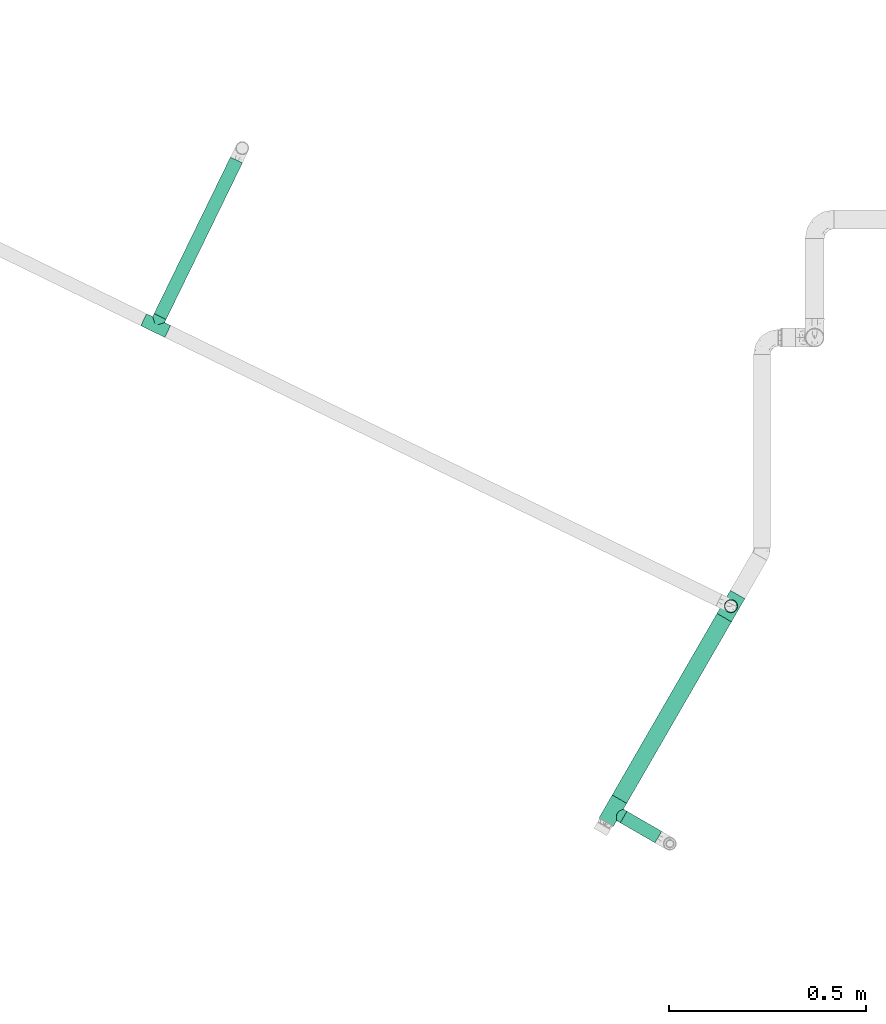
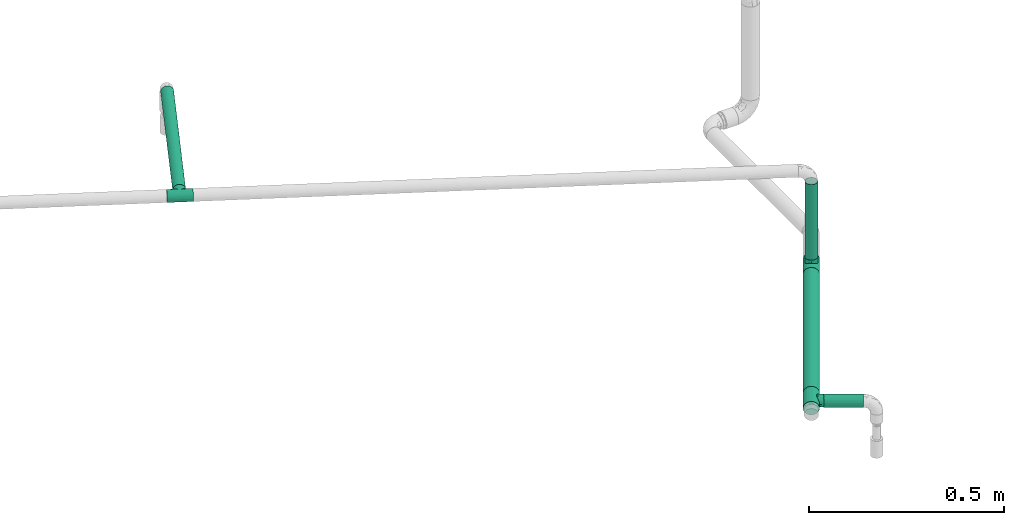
# One storey, part 4 of 43: 4 flow segments, 3 flow fittings.
"""IFC2X3 building model written with IfcOpenShell, lengths in millimetres."""

from ifc_helpers import new_model, entity, si_unit, converted_unit, derived_unit, direction, frame, origin_with_axes, origin_2d_with_axis, place, context, subcontext, project, spatial, hollow_circle, extrude, open_shell, surface_model, source, transform, mapped, type_object, element, save


model = new_model("IFC2X3")

# Units and contexts
model_context = context("Model", 3, precision=0.01, world=frame((0.0, 4.29681676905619e-09, 0.0)), true_north=direction((4.01073788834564e-13, 1.0)))
plan_context = context("Plan", 3, precision=0.01, world=frame((0.0, 4.29681676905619e-09, 0.0)), true_north=direction((4.01073788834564e-13, 1.0)))
body_context = subcontext(model_context, "Body", "Model", "MODEL_VIEW")
ifc_project = project(units=[converted_unit("PLANEANGLEUNIT", "DEGREE", entity("IfcPositiveLengthMeasure", 0.0174532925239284), si_unit("PLANEANGLEUNIT", "RADIAN"), dimensions=[0, 0, 0, 0, 0, 0, 0]), si_unit("AREAUNIT", "SQUARE_METRE"), si_unit("LENGTHUNIT", "METRE", prefix="MILLI"), si_unit("MASSUNIT", "GRAM", prefix="KILO"), si_unit("POWERUNIT", "WATT"), si_unit("PRESSUREUNIT", "PASCAL"), si_unit("FORCEUNIT", "NEWTON", prefix="KILO"), si_unit("ELECTRICVOLTAGEUNIT", "VOLT"), si_unit("ELECTRICCURRENTUNIT", "AMPERE"), si_unit("THERMODYNAMICTEMPERATUREUNIT", "DEGREE_CELSIUS"), si_unit("TIMEUNIT", "SECOND"), si_unit("VOLUMEUNIT", "CUBIC_METRE"), derived_unit("LINEARVELOCITYUNIT", [(si_unit("LENGTHUNIT", "METRE"), 1), (si_unit("TIMEUNIT", "SECOND"), -1)]), derived_unit("VOLUMETRICFLOWRATEUNIT", [(si_unit("VOLUMEUNIT", "CUBIC_METRE"), 1), (si_unit("TIMEUNIT", "SECOND"), -1)]), derived_unit("THERMALTRANSMITTANCEUNIT", [(si_unit("POWERUNIT", "WATT"), 1), (si_unit("THERMODYNAMICTEMPERATUREUNIT", "KELVIN"), -1), (si_unit("AREAUNIT", "SQUARE_METRE"), -1)]), derived_unit("SOUNDPRESSUREUNIT", [(si_unit("PRESSUREUNIT", "PASCAL"), 1)])], contexts=[model_context, plan_context])

# Site, building, storey
site_placement = place(None, frame((0.0, -4.29681676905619e-09, 0.0), z_axis=(0.0, 0.0, 1.0), x_axis=(1.0, 0.0, 0.0)))
site = spatial("IfcSite", under=ifc_project, at=site_placement, CompositionType="ELEMENT")
building_placement = place(site_placement, frame((0.0, 4.29681676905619e-09, 0.0), z_axis=(0.0, 0.0, 1.0), x_axis=(1.0, 0.0, 0.0)))
building = spatial("IfcBuilding", under=site, at=building_placement, Name="mc-building", CompositionType="ELEMENT")
storey_placement = place(building_placement, frame((0.0, 0.0, 210900.0), z_axis=(0.0, 0.0, 1.0), x_axis=(1.0, 0.0, 0.0)))
storey = spatial("IfcBuildingStorey", under=building, at=storey_placement, Name="Nivå F", CompositionType="ELEMENT", Elevation=210900.0)

# Flow fittings
pipe_fitting_type = type_object("IfcPipeFittingType", Name="magi_pipe_fe_tee_centric_90_NOR", PredefinedType="JUNCTION")
shared_shape_1 = source(origin_with_axes(), body_context, "Body", "SurfaceModel", [
    surface_model("IfcShellBasedSurfaceModel", [(-33.8, 0.0, -21.2), (-33.8, -5.48696, -20.47763), (-33.8, 5.48696, -20.47763), (-33.8, 10.6, -18.35974), (-33.8, 14.99066, -14.99066), (-33.8, -20.47763, 5.48696), (-33.8, 18.35974, -10.6), (-33.8, 10.6, 18.35974), (-33.8, -14.99066, -14.99066), (-33.8, -18.35974, -10.6), (-33.8, -10.6, -18.35974), (-33.8, -20.47763, -5.48696), (-33.8, -21.2, 0.0), (-33.8, 18.35974, 10.6), (-33.8, 20.47763, -5.48696), (-33.8, 20.47763, 5.48696), (-33.8, 21.2, 0.0), (-33.8, 14.99066, 14.99066), (-33.8, 5.48696, 20.47763), (-33.8, 0.0, 21.2), (-33.8, -18.35974, 10.6), (-33.8, -14.99066, 14.99066), (-33.8, -10.6, 18.35974), (-33.8, -5.48696, 20.47763), (33.8, 5.48696, -20.47763), (33.8, -5.48696, -20.47763), (33.8, 0.0, -21.2), (33.8, 14.99066, -14.99066), (33.8, 10.6, -18.35974), (33.8, 18.35974, -10.6), (33.8, 20.47763, -5.48696), (33.8, -21.2, 0.0), (33.8, -10.6, -18.35974), (33.8, -18.35974, -10.6), (33.8, -14.99066, -14.99066), (33.8, -20.47763, -5.48696), (33.8, -20.47763, 5.48696), (33.8, 21.2, 0.0), (33.8, 20.47763, 5.48696), (33.8, 18.35974, 10.6), (33.8, 10.6, 18.35974), (33.8, 14.99066, 14.99066), (33.8, 0.0, 21.2), (33.8, 5.48696, 20.47763), (33.8, -14.99066, 14.99066), (33.8, -18.35974, 10.6), (33.8, -10.6, 18.35974), (33.8, -5.48696, 20.47763), (16.9, -21.2, 0.0), (15.78624, -20.32327, 6.03364), (12.81343, -18.11115, 11.01935), (8.52479, -15.37862, 14.59239), (3.07939, -13.16482, 16.61708), (-16.9, -21.2, 0.0), (-15.78686, -20.32375, 6.032), (-8.52604, -15.37932, 14.59166), (-3.0848, -13.16609, 16.61608), (-12.81602, -18.11299, 11.01634), (3.07939, -13.16482, -16.61708), (12.81343, -18.11115, -11.01935), (8.52479, -15.37862, -14.59239), (15.78624, -20.32327, -6.03364), (-3.0848, -13.16609, -16.61608), (-8.52604, -15.37932, -14.59166), (-12.81602, -18.11299, -11.01634), (-15.78686, -20.32375, -6.032), (4.37404, -31.8, -16.32415), (-16.9, -31.8, 0.0), (0.0, -31.8, -16.9), (14.63583, -31.8, -8.45), (8.45, -31.8, -14.63583), (16.32415, -31.8, -4.37404), (11.9501, -31.8, -11.9501), (-11.9501, -31.8, -11.9501), (-8.45, -31.8, -14.63583), (-4.37404, -31.8, -16.32415), (-14.63583, -31.8, -8.45), (-16.32415, -31.8, -4.37404), (16.9, -31.8, 0.0), (8.45, -31.8, 14.63583), (16.32415, -31.8, 4.37404), (14.63583, -31.8, 8.45), (-8.45, -31.8, 14.63583), (11.9501, -31.8, 11.9501), (4.37404, -31.8, 16.32415), (-16.32415, -31.8, 4.37404), (-11.9501, -31.8, 11.9501), (-14.63583, -31.8, 8.45), (0.0, -31.8, 16.9), (-4.37404, -31.8, 16.32415), (-16.34343, -20.76188, 3.016), (16.34312, -20.76163, 3.01682), (-0.00271, -13.16546, 16.61658), (16.34312, -20.76163, -3.01682), (-0.00271, -13.16546, -16.61658), (-16.34343, -20.76188, -3.016)], [open_shell([[[0, 1, 2]], [[3, 2, 4]], [[5, 2, 1]], [[4, 2, 6]], [[6, 2, 7]], [[8, 9, 10]], [[1, 10, 9]], [[9, 11, 1]], [[12, 1, 11]], [[5, 1, 12]], [[13, 14, 6]], [[13, 15, 16]], [[6, 7, 13]], [[5, 7, 2]], [[17, 13, 7]], [[18, 7, 19]], [[20, 21, 5]], [[22, 5, 21]], [[23, 19, 22]], [[7, 5, 22]], [[22, 19, 7]], [[16, 14, 13]], [[24, 25, 26]], [[27, 24, 28]], [[29, 30, 24]], [[29, 24, 27]], [[31, 24, 30]], [[32, 33, 34]], [[33, 32, 25]], [[33, 31, 35]], [[31, 33, 25]], [[25, 24, 31]], [[30, 36, 31]], [[37, 38, 39]], [[37, 39, 40]], [[37, 40, 36]], [[40, 39, 41]], [[42, 40, 43]], [[36, 44, 45]], [[44, 36, 46]], [[46, 42, 47]], [[46, 36, 40]], [[40, 42, 46]], [[37, 36, 30]], [[31, 36, 48]], [[49, 48, 36]], [[36, 45, 49]], [[45, 44, 50]], [[51, 50, 44]], [[52, 51, 44]], [[44, 46, 52]], [[45, 50, 49]], [[53, 54, 5]], [[5, 12, 53]], [[54, 20, 5]], [[55, 56, 21]], [[20, 57, 21]], [[57, 20, 54]], [[21, 57, 55]], [[56, 22, 21]], [[52, 22, 56]], [[19, 47, 42]], [[23, 46, 47]], [[18, 42, 43]], [[39, 38, 15]], [[17, 40, 41]], [[13, 41, 39]], [[43, 40, 7]], [[16, 38, 37]], [[22, 46, 23]], [[23, 47, 19]], [[18, 19, 42]], [[43, 7, 18]], [[7, 40, 17]], [[13, 17, 41]], [[15, 13, 39]], [[38, 16, 15]], [[46, 22, 52]], [[6, 30, 29]], [[14, 37, 30]], [[4, 29, 27]], [[26, 25, 1]], [[2, 28, 24]], [[0, 24, 26]], [[27, 28, 3]], [[10, 25, 32]], [[16, 37, 14]], [[14, 30, 6]], [[4, 6, 29]], [[27, 3, 4]], [[3, 28, 2]], [[0, 2, 24]], [[1, 0, 26]], [[25, 10, 1]], [[32, 58, 10]], [[34, 59, 60]], [[59, 34, 33]], [[60, 58, 34]], [[34, 58, 32]], [[35, 31, 48]], [[35, 61, 33]], [[61, 35, 48]], [[33, 61, 59]], [[62, 63, 8]], [[8, 64, 9]], [[64, 8, 63]], [[62, 8, 10]], [[65, 53, 11]], [[65, 11, 9]], [[11, 53, 12]], [[65, 9, 64]], [[58, 62, 10]], [[66, 67, 68]], [[69, 66, 70]], [[69, 71, 66]], [[69, 70, 72]], [[67, 66, 71]], [[68, 73, 74]], [[74, 75, 68]], [[76, 67, 77]], [[73, 68, 76]], [[67, 76, 68]], [[71, 78, 67]], [[79, 78, 80]], [[79, 80, 81]], [[82, 67, 79]], [[79, 81, 83]], [[82, 79, 84]], [[85, 86, 87]], [[86, 85, 82]], [[82, 88, 89]], [[85, 67, 82]], [[84, 88, 82]], [[79, 67, 78]], [[85, 90, 67]], [[57, 87, 86]], [[85, 87, 54]], [[86, 82, 55]], [[85, 54, 90]], [[90, 53, 67]], [[54, 87, 57]], [[91, 49, 80]], [[55, 89, 56]], [[55, 57, 86]], [[88, 52, 92]], [[55, 82, 89]], [[52, 88, 84]], [[79, 51, 84]], [[50, 83, 81]], [[83, 51, 79]], [[81, 80, 49]], [[83, 50, 51]], [[51, 52, 84]], [[78, 91, 80]], [[49, 50, 81]], [[91, 78, 48]], [[88, 56, 89]], [[92, 56, 88]], [[71, 93, 78]], [[59, 69, 72]], [[71, 69, 61]], [[72, 70, 60]], [[93, 48, 78]], [[61, 69, 59]], [[60, 66, 58]], [[60, 59, 72]], [[68, 62, 94]], [[60, 70, 66]], [[95, 67, 53]], [[95, 65, 77]], [[71, 61, 93]], [[75, 62, 68]], [[65, 76, 77]], [[73, 76, 64]], [[68, 58, 66]], [[75, 63, 62]], [[63, 75, 74]], [[74, 73, 63]], [[63, 73, 64]], [[64, 76, 65]], [[67, 95, 77]], [[94, 58, 68]]])]),
])
for number, where, z_axis, x_axis, name in (
    (1, (605190.52615, 696126.19788, 2270.0), (0.0, 0.0, 1.0), (0.500000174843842, 0.866025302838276, 0.0), "magi_pipe_fe_tee_centric_90_NOR"),
    (2, (605490.01562, 696644.86733, 2270.0), (-0.866025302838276, 0.500000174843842, 0.0), (0.500000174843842, 0.866025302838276, 0.0), "magi_pipe_fe_tee_centric_90_NOR"),
):
    element("IfcFlowFitting", number, at=place(storey_placement, frame(where, z_axis=z_axis, x_axis=x_axis)), inside=storey, type_object=pipe_fitting_type, Name=name, context=body_context, shape_type="MappedRepresentation", body=[
        mapped(shared_shape_1, transform((0.0, 0.0, 0.0), scale=1.0)),
    ])
shared_shape_2 = source(origin_with_axes(), body_context, "Body", "SurfaceModel", [
    surface_model("IfcShellBasedSurfaceModel", [(-33.8, 8.45, -14.63583), (-33.8, 4.37404, -16.32415), (-33.8, 11.9501, -11.9501), (-33.8, -11.9501, -11.9501), (-33.8, -14.63583, -8.45), (-33.8, -8.45, -14.63583), (-33.8, 0.0, -16.9), (-33.8, -4.37404, -16.32415), (-33.8, -4.37404, 16.32415), (-33.8, 0.0, 16.9), (-33.8, -8.45, 14.63583), (-33.8, 16.32415, -4.37404), (-33.8, 14.63583, -8.45), (-33.8, -16.9, 0.0), (-33.8, -16.32415, -4.37404), (-33.8, 14.63583, 8.45), (-33.8, 16.32415, 4.37404), (-33.8, 8.45, 14.63583), (-33.8, 11.9501, 11.9501), (-33.8, 4.37404, 16.32415), (-33.8, -11.9501, 11.9501), (-33.8, -14.63583, 8.45), (-33.8, -16.32415, 4.37404), (-33.8, 16.9, 0.0), (33.8, 4.37404, -16.32415), (33.8, -16.9, 0.0), (33.8, 0.0, -16.9), (33.8, 14.63583, -8.45), (33.8, 8.45, -14.63583), (33.8, 16.32415, -4.37404), (33.8, 11.9501, -11.9501), (33.8, -16.32415, 4.37404), (33.8, -8.45, -14.63583), (33.8, -4.37404, -16.32415), (33.8, -11.9501, -11.9501), (33.8, -14.63583, -8.45), (33.8, -16.32415, -4.37404), (33.8, 16.32415, 4.37404), (33.8, 8.45, 14.63583), (33.8, 14.63583, 8.45), (33.8, 11.9501, 11.9501), (33.8, -8.45, 14.63583), (33.8, 4.37404, 16.32415), (33.8, -14.63583, 8.45), (33.8, -11.9501, 11.9501), (33.8, 0.0, 16.9), (33.8, -4.37404, 16.32415), (33.8, 16.9, 0.0), (16.28698, -16.28698, 4.51047), (16.9, -16.9, 0.0), (14.62704, -14.62704, 8.4652), (9.47213, -9.47213, 13.99602), (12.26343, -12.26343, 11.62834), (-16.9, -16.9, 0.0), (-16.28698, -16.28698, 4.51047), (-14.62704, -14.62704, 8.4652), (-12.26343, -12.26343, 11.62834), (-9.47213, -9.47213, 13.99602), (-6.42894, -6.42894, 15.62942), (6.42894, -6.42894, 15.62942), (3.24522, -3.24522, 16.58549), (0.0, 0.0, 16.9), (-3.24522, -3.24522, 16.58549), (3.24522, -3.24522, -16.58549), (0.0, 0.0, -16.9), (-3.24522, -3.24522, -16.58549), (-6.42894, -6.42894, -15.62942), (6.42894, -6.42894, -15.62942), (9.47213, -9.47213, -13.99602), (12.26343, -12.26343, -11.62834), (14.62704, -14.62704, -8.4652), (16.28698, -16.28698, -4.51047), (-9.47213, -9.47213, -13.99602), (-12.26343, -12.26343, -11.62834), (-16.28698, -16.28698, -4.51047), (-14.62704, -14.62704, -8.4652), (4.37404, -25.35, -16.32415), (-16.9, -25.35, 0.0), (0.0, -25.35, -16.9), (14.63583, -25.35, -8.45), (8.45, -25.35, -14.63583), (16.32415, -25.35, -4.37404), (11.9501, -25.35, -11.9501), (-11.9501, -25.35, -11.9501), (-8.45, -25.35, -14.63583), (-4.37404, -25.35, -16.32415), (-14.63583, -25.35, -8.45), (-16.32415, -25.35, -4.37404), (16.9, -25.35, 0.0), (8.45, -25.35, 14.63583), (16.32415, -25.35, 4.37404), (14.63583, -25.35, 8.45), (-8.45, -25.35, 14.63583), (11.9501, -25.35, 11.9501), (4.37404, -25.35, 16.32415), (-16.32415, -25.35, 4.37404), (-11.9501, -25.35, 11.9501), (-14.63583, -25.35, 8.45), (0.0, -25.35, 16.9), (-4.37404, -25.35, 16.32415)], [open_shell([[[0, 1, 2]], [[3, 4, 5]], [[6, 7, 5]], [[8, 9, 10]], [[1, 6, 11]], [[1, 11, 12]], [[2, 1, 12]], [[13, 11, 6]], [[14, 13, 4]], [[6, 5, 4]], [[6, 4, 13]], [[13, 15, 11]], [[15, 16, 11]], [[10, 15, 13]], [[15, 10, 17]], [[18, 15, 17]], [[19, 17, 9]], [[20, 10, 21]], [[22, 21, 10]], [[10, 13, 22]], [[10, 9, 17]], [[23, 11, 16]], [[24, 25, 26]], [[27, 24, 28]], [[27, 29, 24]], [[27, 28, 30]], [[31, 25, 24]], [[26, 32, 33]], [[26, 34, 32]], [[35, 25, 36]], [[35, 34, 26]], [[25, 35, 26]], [[24, 29, 31]], [[29, 37, 38]], [[38, 37, 39]], [[38, 31, 29]], [[38, 39, 40]], [[41, 38, 42]], [[43, 41, 44]], [[41, 43, 31]], [[41, 45, 46]], [[41, 31, 38]], [[42, 45, 41]], [[29, 47, 37]], [[31, 43, 48]], [[25, 31, 49]], [[49, 31, 48]], [[43, 50, 48]], [[44, 41, 51]], [[50, 43, 52]], [[51, 52, 44]], [[52, 43, 44]], [[53, 54, 22]], [[53, 22, 13]], [[22, 54, 21]], [[54, 55, 21]], [[56, 57, 20]], [[20, 21, 56]], [[20, 57, 10]], [[56, 21, 55]], [[10, 57, 58]], [[51, 41, 59]], [[60, 45, 61]], [[59, 46, 60]], [[46, 59, 41]], [[60, 46, 45]], [[61, 45, 42]], [[39, 37, 16]], [[18, 38, 40]], [[15, 40, 39]], [[42, 38, 17]], [[23, 37, 47]], [[62, 61, 9]], [[62, 8, 58]], [[8, 62, 9]], [[58, 8, 10]], [[61, 19, 9]], [[42, 19, 61]], [[17, 19, 42]], [[17, 38, 18]], [[15, 18, 40]], [[16, 15, 39]], [[37, 23, 16]], [[12, 27, 30]], [[23, 47, 29]], [[30, 28, 0]], [[27, 11, 29]], [[26, 33, 63]], [[26, 64, 24]], [[64, 26, 63]], [[28, 24, 1]], [[64, 1, 24]], [[2, 30, 0]], [[11, 27, 12]], [[12, 30, 2]], [[11, 23, 29]], [[65, 66, 7]], [[6, 1, 64]], [[6, 65, 7]], [[66, 5, 7]], [[1, 0, 28]], [[6, 64, 65]], [[63, 33, 67]], [[32, 34, 68]], [[69, 68, 34]], [[35, 70, 69]], [[69, 34, 35]], [[32, 68, 67]], [[36, 25, 49]], [[36, 71, 35]], [[71, 36, 49]], [[35, 71, 70]], [[72, 5, 66]], [[72, 3, 5]], [[3, 72, 73]], [[3, 73, 4]], [[74, 53, 14]], [[75, 74, 4]], [[74, 14, 4]], [[14, 53, 13]], [[75, 4, 73]], [[32, 67, 33]], [[76, 77, 78]], [[79, 76, 80]], [[79, 81, 76]], [[79, 80, 82]], [[77, 76, 81]], [[78, 83, 84]], [[84, 85, 78]], [[86, 77, 87]], [[83, 78, 86]], [[77, 86, 78]], [[81, 88, 77]], [[89, 88, 90]], [[89, 90, 91]], [[92, 77, 89]], [[89, 91, 93]], [[92, 89, 94]], [[95, 96, 97]], [[96, 95, 92]], [[92, 98, 99]], [[95, 77, 92]], [[94, 98, 92]], [[89, 77, 88]], [[77, 95, 53]], [[54, 53, 95]], [[97, 96, 56]], [[96, 92, 57]], [[95, 97, 54]], [[58, 92, 99]], [[55, 54, 97]], [[56, 55, 97]], [[58, 57, 92]], [[98, 61, 62]], [[58, 99, 62]], [[56, 96, 57]], [[62, 99, 98]], [[94, 60, 98]], [[89, 59, 94]], [[91, 90, 48]], [[52, 93, 91]], [[93, 51, 89]], [[49, 90, 88]], [[59, 60, 94]], [[51, 59, 89]], [[49, 48, 90]], [[50, 52, 91]], [[48, 50, 91]], [[51, 93, 52]], [[98, 60, 61]], [[88, 81, 49]], [[71, 49, 81]], [[79, 82, 69]], [[82, 80, 68]], [[81, 79, 71]], [[67, 80, 76]], [[70, 71, 79]], [[69, 70, 79]], [[67, 68, 80]], [[78, 64, 63]], [[67, 76, 63]], [[69, 82, 68]], [[63, 76, 78]], [[85, 65, 78]], [[84, 66, 85]], [[86, 87, 74]], [[86, 73, 83]], [[72, 84, 83]], [[53, 87, 77]], [[66, 65, 85]], [[72, 66, 84]], [[53, 74, 87]], [[75, 73, 86]], [[74, 75, 86]], [[72, 83, 73]], [[78, 65, 64]]])]),
])
flow_fitting_placement = place(storey_placement, frame((604032.07117, 697355.95436, 2571.79999999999), z_axis=(0.0, 0.0, 1.0), x_axis=(-0.898794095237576, 0.438371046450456, 0.0)))
element("IfcFlowFitting", 3, at=flow_fitting_placement, inside=storey, type_object=pipe_fitting_type, Name="magi_pipe_fe_tee_centric_90_NOR", context=body_context, shape_type="MappedRepresentation", body=[
    mapped(shared_shape_2, transform((0.0, 0.0, 0.0), scale=1.0)),
])

# Flow segments
pipe_segment_type = type_object("IfcPipeSegmentType", Name="Stålrør normaltykke", PredefinedType="RIGIDSEGMENT")
shared_shape_3 = source(origin_with_axes(), body_context, "Body", "SweptSolid", [
    extrude(hollow_circle(Radius=16.9, WallThickness=2.0, at=origin_2d_with_axis()), frame((0.0, 0.0, 0.0), z_axis=(1.0, 0.0, 0.0), x_axis=(0.0, 1.0, 0.0)), (0.0, 0.0, 1.0), 101.7),
])
flow_segment_1_placement = place(storey_placement, frame((605306.11592, 696059.4621, 2270.0), z_axis=(0.0, 0.0, 1.0), x_axis=(-0.866025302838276, 0.500000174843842, 0.0)))
element("IfcFlowSegment", 4, at=flow_segment_1_placement, inside=storey, type_object=pipe_segment_type, Name="Stålrør normaltykke", context=body_context, shape_type="MappedRepresentation", body=[
    mapped(shared_shape_3, transform((0.0, 0.0, 0.0), scale=1.0)),
])
shared_shape_4 = source(origin_with_axes(), body_context, "Body", "SweptSolid", [
    extrude(hollow_circle(Radius=21.2, WallThickness=2.0, at=origin_2d_with_axis()), frame((0.0, 0.0, 0.0), z_axis=(1.0, 0.0, 0.0), x_axis=(0.0, 1.0, 0.0)), (0.0, 0.0, 1.0), 531.3),
])
flow_segment_2_placement = place(storey_placement, frame((605473.11562, 696615.59567, 2270.0), z_axis=(0.0, 0.0, 1.0), x_axis=(-0.500000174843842, -0.866025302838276, 0.0)))
element("IfcFlowSegment", 5, at=flow_segment_2_placement, inside=storey, type_object=pipe_segment_type, Name="Stålrør normaltykke", context=body_context, shape_type="MappedRepresentation", body=[
    mapped(shared_shape_4, transform((0.0, 0.0, 0.0), scale=1.0)),
])
shared_shape_5 = source(origin_with_axes(), body_context, "Body", "SweptSolid", [
    extrude(hollow_circle(Radius=16.9, WallThickness=2.0, at=origin_2d_with_axis()), frame((0.0, 0.0, 0.0), z_axis=(1.0, 0.0, 0.0), x_axis=(0.0, 1.0, 0.0)), (0.0, 0.0, 1.0), 236.2),
])
flow_segment_3_placement = place(storey_placement, frame((605490.01562, 696644.86733, 2301.79999999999), z_axis=(-0.898794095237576, 0.438371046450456, 0.0), x_axis=(0.0, 0.0, 1.0)))
element("IfcFlowSegment", 6, at=flow_segment_3_placement, inside=storey, type_object=pipe_segment_type, Name="Stålrør normaltykke", context=body_context, shape_type="MappedRepresentation", body=[
    mapped(shared_shape_5, transform((0.0, 0.0, 0.0), scale=1.0)),
])
shared_shape_6 = source(origin_with_axes(), body_context, "Body", "SweptSolid", [
    extrude(hollow_circle(Radius=16.9, WallThickness=2.0, at=origin_2d_with_axis()), frame((0.0, 0.0, 0.0), z_axis=(1.0, 0.0, 0.0), x_axis=(0.0, 1.0, 0.0)), (0.0, 0.0, 1.0), 441.4),
])
flow_segment_4_placement = place(storey_placement, frame((604043.18388, 697378.73879, 2571.79999999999), z_axis=(0.0, 0.0, 1.0), x_axis=(0.438371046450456, 0.898794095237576, 0.0)))
element("IfcFlowSegment", 7, at=flow_segment_4_placement, inside=storey, type_object=pipe_segment_type, Name="Stålrør normaltykke", context=body_context, shape_type="MappedRepresentation", body=[
    mapped(shared_shape_6, transform((0.0, 0.0, 0.0), scale=1.0)),
])

save(model, "model.ifc")
